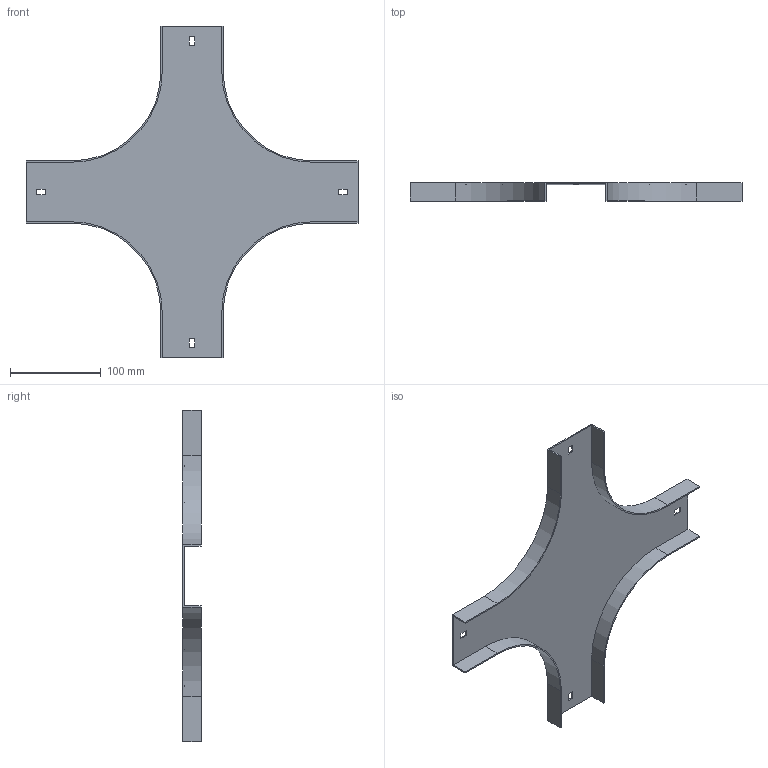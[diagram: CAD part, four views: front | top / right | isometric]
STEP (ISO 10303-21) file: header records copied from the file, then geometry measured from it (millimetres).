
FILE_DESCRIPTION (( 'STEP AP214' ), '1' );
FILE_NAME ('17N1R065.step', '2025-02-21T09:52:27', ( '' ), ( '' ), 'SwSTEP 2.0', 'SolidWorks 2023', '' );
FILE_SCHEMA (( 'AUTOMOTIVE_DESIGN' ));
Length unit declared in the file: millimetre
Products named in the file (1): 17N1R065
Bounding box: 365.5 x 20 x 365.5 mm (x, y, z)
Volume: 108618.7 mm3; surface area: 147172.2 mm2
Topology: 1 solids, 1 shells, 50 faces, 144 edges, 96 vertices
Faces by surface type: plane 42, cylinder 8
Entity records: 1663 total; most frequent: CARTESIAN_POINT 291, ORIENTED_EDGE 288, DIRECTION 262, EDGE_CURVE 144, VECTOR 128, LINE 128, VERTEX_POINT 96, AXIS2_PLACEMENT_3D 67
